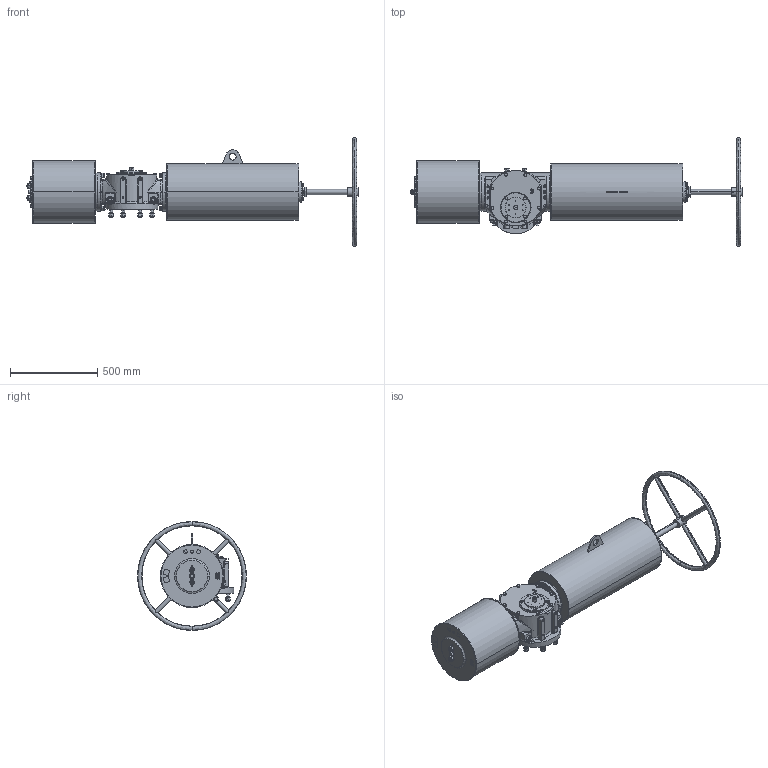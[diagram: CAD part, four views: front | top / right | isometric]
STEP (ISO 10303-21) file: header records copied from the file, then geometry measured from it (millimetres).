
FILE_DESCRIPTION (( 'STEP AP203' ), '1' );
FILE_NAME ('VTS3-350-SR-MS-FC.STEP', '2022-12-31T08:53:29', ( '' ), ( '' ), 'SwSTEP 2.0', 'SolidWorks 2020', '' );
FILE_SCHEMA (( 'CONFIG_CONTROL_DESIGN' ));
Length unit declared in the file: millimetre
Products named in the file (1): VTS3-350-SR-MS-FC
Bounding box: 1904 x 625 x 625 mm (x, y, z)
Volume: 119465972.8 mm3; surface area: 2849606.3 mm2
Topology: 40 solids, 47 shells, 2435 faces, 6010 edges, 3754 vertices
Faces by surface type: plane 911, cylinder 749, cone 614, bspline 155, torus 6
Entity records: 104895 total; most frequent: CARTESIAN_POINT 48941, ORIENTED_EDGE 11890, DIRECTION 11459, EDGE_CURVE 5945, AXIS2_PLACEMENT_3D 4563, VERTEX_POINT 3754, EDGE_LOOP 2679, FACE_OUTER_BOUND 2435
